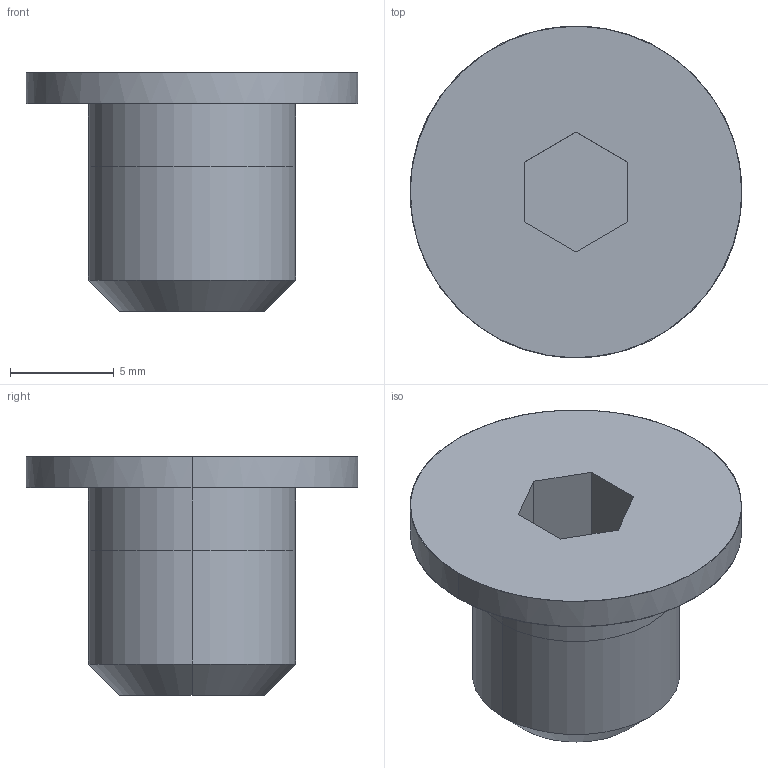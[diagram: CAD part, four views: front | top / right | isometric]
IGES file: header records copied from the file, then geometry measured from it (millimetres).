
Global section: file name: E:\UnigraphicsGraphicData\MISUMI_PRESS-PARTS\IGES\3d_cbss10-10_03489_r00.igs; native system: NX V5.0; preprocessor: UGS NX IGES V5.0; author: MISUMI; date: 20110105.160200; units: millimetre
Bounding box: 16 x 16 x 11.5 mm (x, y, z)
Surface area: 848.9 mm2 (no closed solid volume)
Topology: 0 solids, 0 shells, 18 faces, 100 edges, 100 vertices
Faces by surface type: bspline 18
